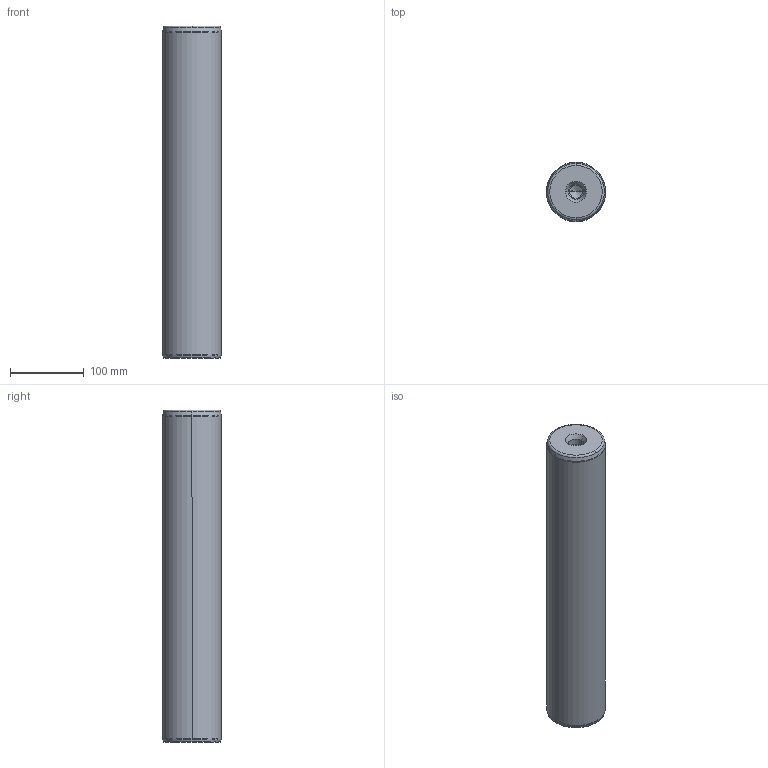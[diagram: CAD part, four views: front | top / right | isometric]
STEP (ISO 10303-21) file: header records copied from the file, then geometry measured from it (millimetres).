
FILE_DESCRIPTION((''),'2;1');
FILE_NAME('P10_080_450.stp','2008-12-23T15:09:11',(''),(''),'Mechanical Desktop 2009','Mechanical Desktop 2009',', , ');
FILE_SCHEMA(('CONFIG_CONTROL_DESIGN'));
Length unit declared in the file: millimetre
Products named in the file (5): Product; ProductAA; blmdl1; ProductA; blmdl1A
Assembly tree (2 placements, depth 3):
  Product
    ProductAA
      blmdl1
  ProductA
  blmdl1A
Bounding box: 80 x 80 x 450 mm (x, y, z)
Volume: 2243465.5 mm3; surface area: 125172.4 mm2
Topology: 1 solids, 1 shells, 26 faces, 66 edges, 41 vertices
Faces by surface type: cone 10, torus 8, cylinder 6, plane 2
Entity records: 1012 total; most frequent: DIRECTION 170, CARTESIAN_POINT 134, ORIENTED_EDGE 128, AXIS2_PLACEMENT_3D 77, EDGE_CURVE 64, CIRCLE 48, VERTEX_POINT 41, EDGE_LOOP 27
